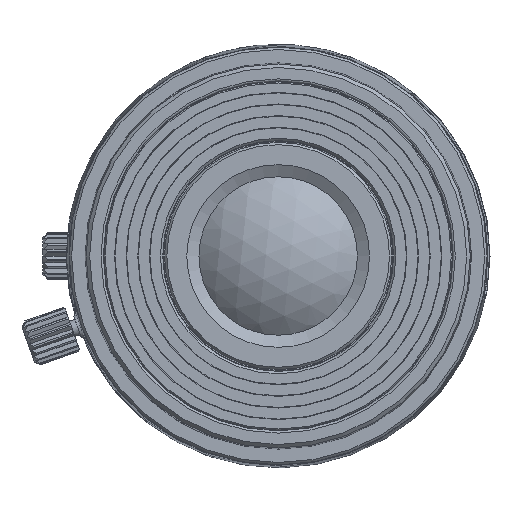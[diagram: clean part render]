
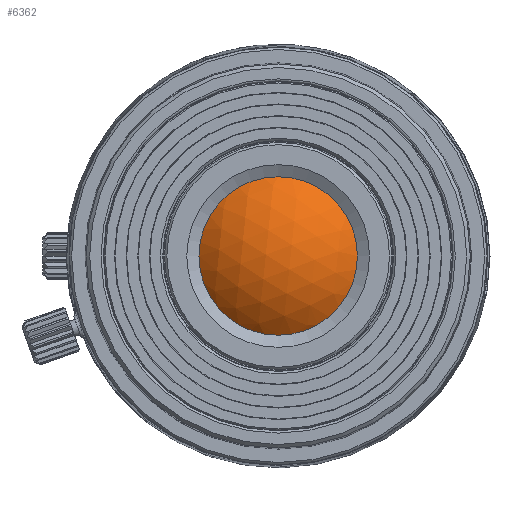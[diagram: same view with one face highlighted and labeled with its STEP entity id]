
A CAD part, left-side view. The second image highlights one B-rep face of the part: STEP entity #6362.
In plain terms, the highlighted spherical face has radius 9.972 mm.
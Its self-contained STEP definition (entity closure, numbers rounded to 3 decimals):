
#30=SPHERICAL_SURFACE('',#6981,9.972);
#1078=CIRCLE('',#6982,6.8);
#2410=ORIENTED_EDGE('',*,*,#3821,.T.);
#3821=EDGE_CURVE('',#4550,#4550,#1078,.T.);
#4550=VERTEX_POINT('',#12600);
#5386=EDGE_LOOP('',(#2410));
#5870=FACE_BOUND('',#5386,.T.);
#6362=ADVANCED_FACE('',(#5870),#30,.T.);
#6981=AXIS2_PLACEMENT_3D('',#12598,#8333,#8334);
#6982=AXIS2_PLACEMENT_3D('',#12599,#8335,#8336);
#8333=DIRECTION('',(0.,-0.995,-0.104));
#8334=DIRECTION('',(0.,0.104,-0.995));
#8335=DIRECTION('',(-1.,0.,0.));
#8336=DIRECTION('',(0.,0.,-1.));
#12598=CARTESIAN_POINT('',(-57.228,0.,0.));
#12599=CARTESIAN_POINT('',(-64.522,0.,0.));
#12600=CARTESIAN_POINT('',(-64.522,0.,-6.8));
